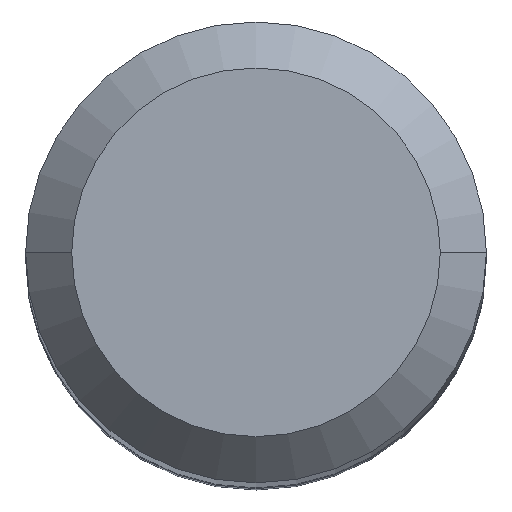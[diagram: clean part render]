
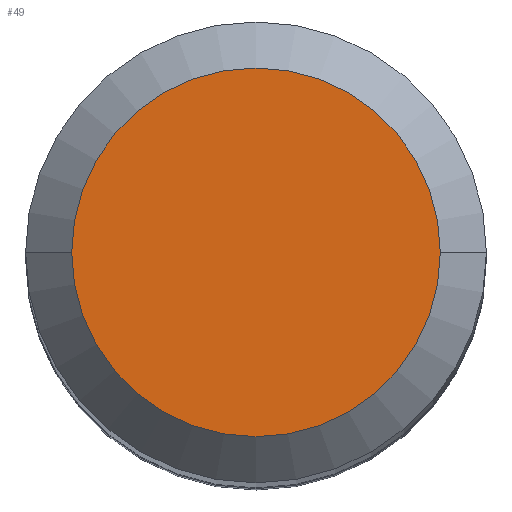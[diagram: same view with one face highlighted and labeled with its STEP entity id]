
A CAD part, top view. The second image highlights one B-rep face of the part: STEP entity #49.
In plain terms, the highlighted planar face has unit normal (0, 0, 1).
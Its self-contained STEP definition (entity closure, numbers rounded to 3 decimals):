
#24 = AXIS2_PLACEMENT_3D ( 'NONE', #653, #378, #536 ) ;
#49 = ADVANCED_FACE ( 'NONE', ( #50 ), #305, .T. ) ;
#50 = FACE_OUTER_BOUND ( 'NONE', #254, .T. ) ;
#140 = AXIS2_PLACEMENT_3D ( 'NONE', #417, #309, #518 ) ;
#201 = VERTEX_POINT ( 'NONE', #277 ) ;
#218 = AXIS2_PLACEMENT_3D ( 'NONE', #613, #681, #348 ) ;
#230 = ORIENTED_EDGE ( 'NONE', *, *, #602, .F. ) ;
#233 = EDGE_CURVE ( 'NONE', #347, #201, #579, .T. ) ;
#254 = EDGE_LOOP ( 'NONE', ( #230, #519 ) ) ;
#277 = CARTESIAN_POINT ( 'NONE',  ( -2.4, 0., 0. ) ) ;
#305 = PLANE ( 'NONE',  #140 ) ;
#309 = DIRECTION ( 'NONE',  ( 0., 0., 1. ) ) ;
#347 = VERTEX_POINT ( 'NONE', #689 ) ;
#348 = DIRECTION ( 'NONE',  ( -1., 0., 0. ) ) ;
#378 = DIRECTION ( 'NONE',  ( 0., 0., -1. ) ) ;
#417 = CARTESIAN_POINT ( 'NONE',  ( 0., 2.4, 0. ) ) ;
#518 = DIRECTION ( 'NONE',  ( 1., 0., 0. ) ) ;
#519 = ORIENTED_EDGE ( 'NONE', *, *, #233, .F. ) ;
#536 = DIRECTION ( 'NONE',  ( -1., 0., 0. ) ) ;
#548 = CIRCLE ( 'NONE', #24, 2.4 ) ;
#579 = CIRCLE ( 'NONE', #218, 2.4 ) ;
#602 = EDGE_CURVE ( 'NONE', #201, #347, #548, .T. ) ;
#613 = CARTESIAN_POINT ( 'NONE',  ( 0., 0., 0. ) ) ;
#653 = CARTESIAN_POINT ( 'NONE',  ( 0., 0., 0. ) ) ;
#681 = DIRECTION ( 'NONE',  ( 0., 0., -1. ) ) ;
#689 = CARTESIAN_POINT ( 'NONE',  ( 2.4, 0., 0. ) ) ;
